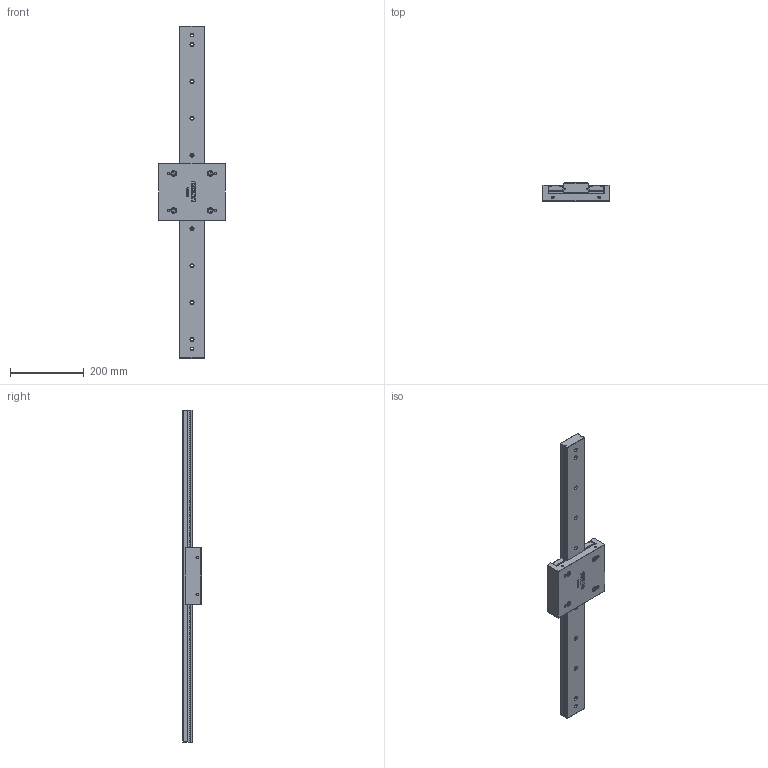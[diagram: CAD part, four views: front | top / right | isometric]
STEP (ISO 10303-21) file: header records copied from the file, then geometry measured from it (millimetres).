
FILE_DESCRIPTION(/* description */ ('TAVOLA TRKD09 L= 900 mm'),/* implementation_level */ '2;1');
FILE_NAME(/* name */ 'TRKD090900-00.stp',/* time_stamp */ '2024-01-30T11:56:04+01:00',/* author */ ('Rosa Sistemi'),/* organization */ (''),/* preprocessor_version */ 'ST-DEVELOPER v20',/* originating_system */ 'Autodesk Inventor 2024',/* authorisation */ '');
FILE_SCHEMA (('AUTOMOTIVE_DESIGN { 1 0 10303 214 3 1 1 }'));
Length unit declared in the file: millimetre
Products named in the file (2): TRKD090900-00; TRKD090900-00_1
Assembly tree (1 placements, depth 2):
  TRKD090900-00
    TRKD090900-00_1
Bounding box: 180 x 49 x 900 mm (x, y, z)
Volume: 2471082.2 mm3; surface area: 327156 mm2
Topology: 22 solids, 22 shells, 719 faces, 1825 edges, 1158 vertices
Faces by surface type: plane 431, cone 106, cylinder 97, bspline 31, sphere 30, torus 24
Full cylindrical faces by diameter (mm): 2 x2, 4.134 x4, 4.823 x1, 6 x8, 6.647 x25, 7 x2, 8 x1, 9 x3, 10.5 x13, 13 x4, 13.263 x1, 14 x4
Entity records: 22778 total; most frequent: CARTESIAN_POINT 4962, ORIENTED_EDGE 3506, DIRECTION 3457, EDGE_CURVE 1753, AXIS2_PLACEMENT_3D 1199, VERTEX_POINT 1158, LINE 1059, VECTOR 1059
